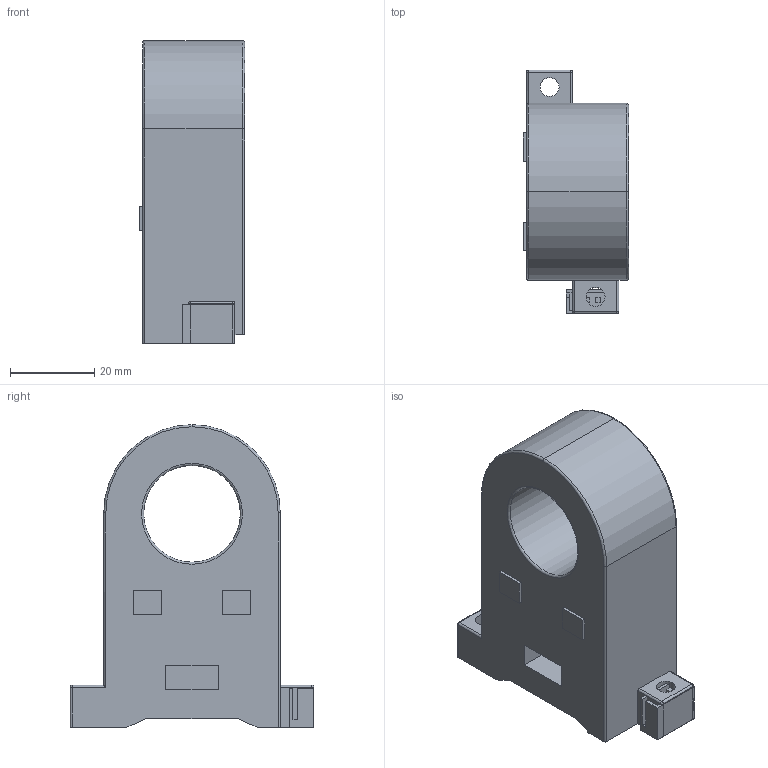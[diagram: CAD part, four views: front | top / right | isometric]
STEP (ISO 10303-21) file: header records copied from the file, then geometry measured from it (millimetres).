
FILE_DESCRIPTION(/* description */ ('Alibre Inc.'),/* implementation_level */ '2;1');
FILE_NAME(/* name */ 'export0',/* time_stamp */ '2013-07-11T09:57:59-06:00',/* author */ (''),/* organization */ (''),/* preprocessor_version */ 'ST-DEVELOPER v14',/* originating_system */ 'Alibre',/* authorisation */ '');
FILE_SCHEMA (('ALIBRE_SCHEMA','CONFIG_CONTROL_DESIGN'));
Length unit declared in the file: centimetre
Products named in the file (3): ID_1
Bounding box: 25.05 x 58 x 72 mm (x, y, z)
Volume: 58682.6 mm3; surface area: 13496.9 mm2
Topology: 2 solids, 2 shells, 106 faces, 266 edges, 167 vertices
Faces by surface type: plane 76, cylinder 20, torus 6, sphere 4
Full cylindrical faces by diameter (mm): 4.5 x2, 23 x1
Entity records: 8659 total; most frequent: CARTESIAN_POINT 1078, DIRECTION 763, CONSTRAINTPAIRUV 714, VECTOR 531, REFERENCEDEPENDENTUV 517, ORIENTED_EDGE 514, LINE 405, REFERENCEPOINTUV 391
